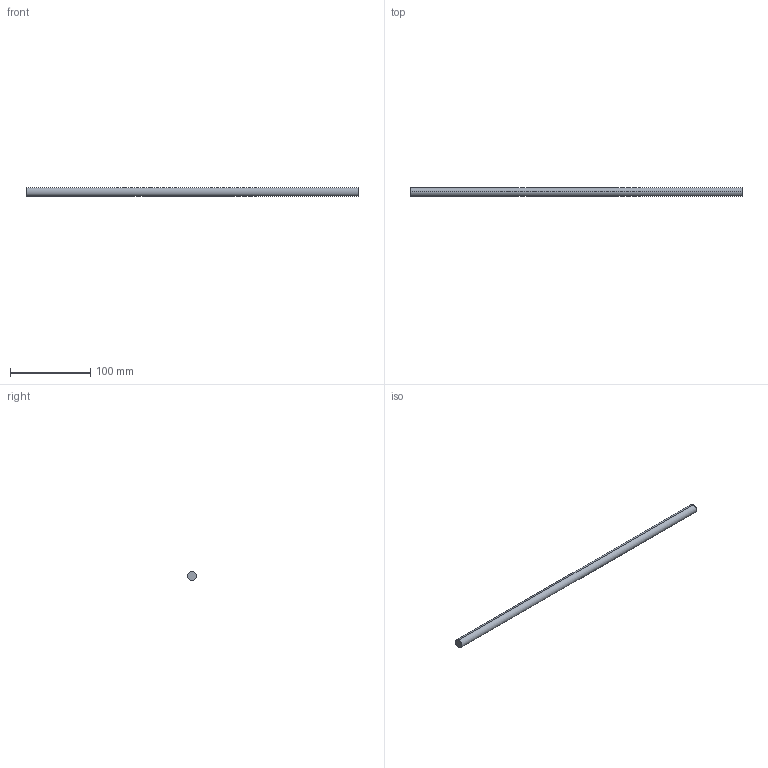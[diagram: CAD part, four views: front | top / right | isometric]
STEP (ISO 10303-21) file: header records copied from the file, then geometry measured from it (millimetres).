
FILE_DESCRIPTION (( 'STEP AP214' ), '1' );
FILE_NAME ('Querreling_Frontblende_Innenlade_KS-16_KAB-500.step', '2010-09-22T15:05:28', ( 'grass' ), ( '' ), 'SwSTEP 2.0', 'SolidWorks 2010', '' );
FILE_SCHEMA (( 'AUTOMOTIVE_DESIGN' ));
Length unit declared in the file: millimetre
Products named in the file (1): Querreling_Frontblende_Innenlade_KS-16_KAB-500
Bounding box: 415 x 11 x 11 mm (x, y, z)
Volume: 39438.8 mm3; surface area: 14531.4 mm2
Topology: 1 solids, 1 shells, 4 faces, 6 edges, 4 vertices
Faces by surface type: cylinder 2, plane 2
Entity records: 128 total; most frequent: DIRECTION 20, CARTESIAN_POINT 15, ORIENTED_EDGE 12, AXIS2_PLACEMENT_3D 9, EDGE_CURVE 6, EDGE_LOOP 4, CIRCLE 4, FACE_OUTER_BOUND 4
